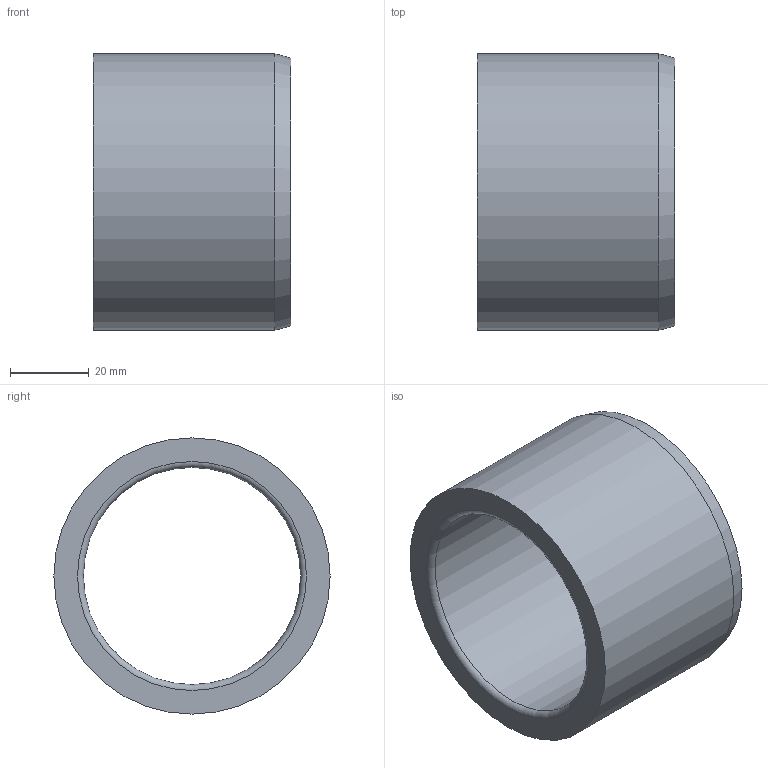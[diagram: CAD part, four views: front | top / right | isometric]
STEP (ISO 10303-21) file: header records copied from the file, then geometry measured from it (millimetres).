
FILE_DESCRIPTION(/* description */ ('Impex Ready, www.impex-ready.pl'),/* implementation_level */ '2;1');
FILE_NAME(/* name */ 'C:\Users\VIKKY\Nextcloud\SM\projekt 10 - części na stronę internetową\Pliki_3D_new\306 Tuleje BG04\306_BG04_STEP\BG04.557050.ipt.step',/* time_stamp */ '2021-12-17T16:36:01+01:00',/* author */ ('SM'),/* organization */ (''),/* preprocessor_version */ 'ST-DEVELOPER v18.1',/* originating_system */ 'Autodesk Inventor 2021',/* authorisation */ '');
FILE_SCHEMA (('AUTOMOTIVE_DESIGN { 1 0 10303 214 3 1 1 }'));
Length unit declared in the file: millimetre
Products named in the file (1): BG04.557050
Bounding box: 50 x 70 x 70 mm (x, y, z)
Volume: 72995.6 mm3; surface area: 22144.7 mm2
Topology: 1 solids, 1 shells, 7 faces, 14 edges, 9 vertices
Faces by surface type: torus 2, cylinder 2, plane 2, cone 1
Full cylindrical faces by diameter (mm): 55 x1, 70 x1
Entity records: 261 total; most frequent: DIRECTION 41, CARTESIAN_POINT 31, ORIENTED_EDGE 28, AXIS2_PLACEMENT_3D 19, EDGE_CURVE 14, CIRCLE 11, EDGE_LOOP 9, VERTEX_POINT 9
